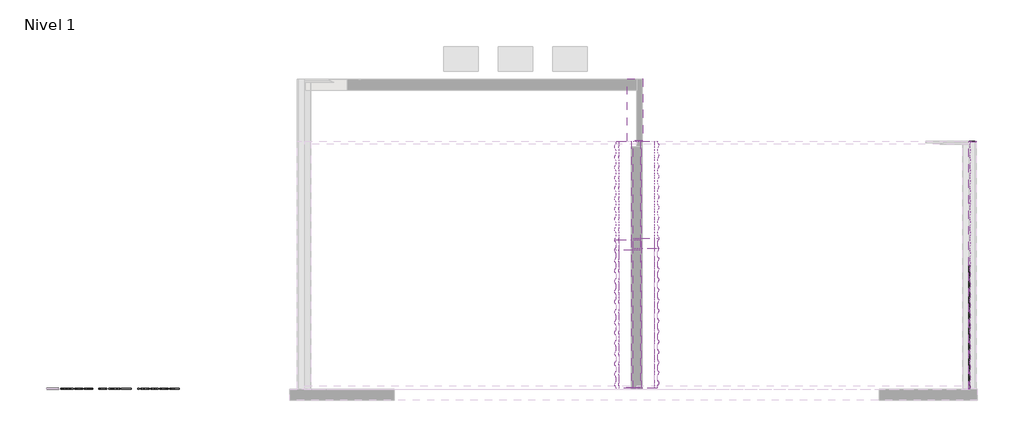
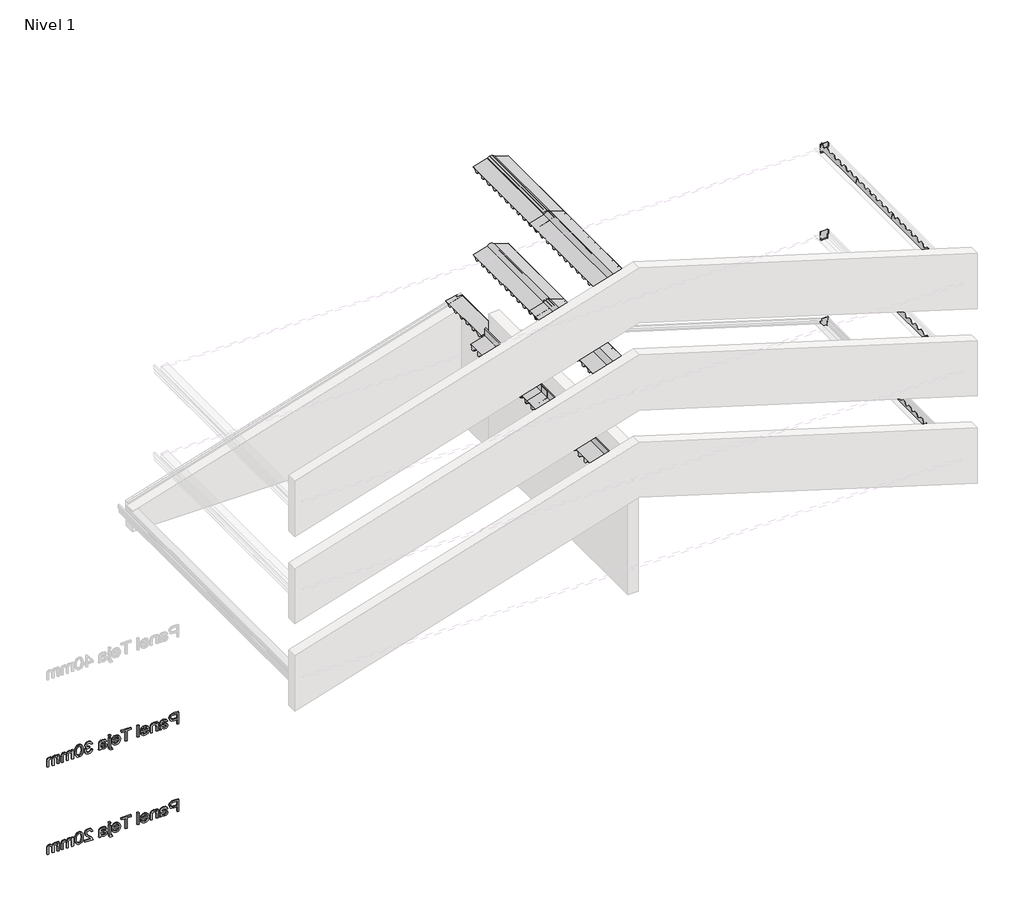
# One storey, part 2 of 2: 26 proxies.
"""IFC4 building model written with IfcOpenShell, lengths in millimetres."""

from ifc_helpers import new_model, si_unit, frame, origin, place, context, project, spatial, polyline, outline, extrude, transform, mapped, element, save
from components import generic_models_f6ca269d, generic_models_1d7e2827, generic_models_13c3b65c, generic_models_877061e0, generic_models_30704ff6, generic_models_2663ef57, generic_models_bbb43453, generic_models_f9b15205, generic_models_c7695958, generic_models_a4d5a3c6, generic_models_b343a18a, generic_models_d8b17708, generic_models_663f8130

model = new_model("IFC4")

# Units and contexts
model_context = context("Model", 3, world=origin())
ifc_project = project(units=[si_unit("LENGTHUNIT", "METRE", prefix="MILLI")], contexts=[model_context])

# Site, building, storey
site = spatial("IfcSite", under=ifc_project)
building = spatial("IfcBuilding", under=site)
storey = spatial("IfcBuildingStorey", under=building, Name="Nivel 1", Elevation=0.0)

# Proxies
placement = place(None, origin())
generic_models_shape = generic_models_f6ca269d(model_context)
element("IfcBuildingElementProxy", 1, Name="H20.F20.003-C-REMATES TEJA-Silueta : Silueta Teja - Panel 30mm", ObjectType="H20.F20.003-C-REMATES TEJA-Silueta : Silueta Teja - Panel 30mm", at=placement, inside=storey, context=model_context, shape_type="MappedRepresentation", body=[
    mapped(generic_models_shape, transform((5591.0812794, 18797.7330794, 2490.8951152), x_axis=(0.0, 1.0, 0.0), y_axis=(0.2923717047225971, 0.0, 0.9563047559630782), z_axis=(0.9563047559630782, 0.0, -0.2923717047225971))),
])
element("IfcBuildingElementProxy", 2, Name="H20.F20.003-C-REMATES TEJA-Silueta : Silueta Teja - Panel 30mm", ObjectType="H20.F20.003-C-REMATES TEJA-Silueta : Silueta Teja - Panel 30mm", at=placement, inside=storey, context=model_context, shape_type="MappedRepresentation", body=[
    mapped(generic_models_shape, transform((5591.0812794, 19797.8020079, 2490.8951152), x_axis=(0.0, 1.0, 0.0), y_axis=(0.2923717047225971, 0.0, 0.9563047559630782), z_axis=(0.9563047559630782, 0.0, -0.2923717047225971))),
])
generic_models_2_shape = generic_models_1d7e2827(model_context)
element("IfcBuildingElementProxy", 3, Name="H20.F20.003-C-REMATES TEJA-Silueta : Silueta Teja - Panel 40mm", ObjectType="H20.F20.003-C-REMATES TEJA-Silueta : Silueta Teja - Panel 40mm", at=placement, inside=storey, context=model_context, shape_type="MappedRepresentation", body=[
    mapped(generic_models_2_shape, transform((5591.0812794, 18797.7330794, 3990.8951152), x_axis=(0.0, 1.0, 0.0), y_axis=(0.2923717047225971, 0.0, 0.9563047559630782), z_axis=(0.9563047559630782, 0.0, -0.2923717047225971))),
])
element("IfcBuildingElementProxy", 4, Name="H20.F20.003-C-REMATES TEJA-Silueta : Silueta Teja - Panel 40mm", ObjectType="H20.F20.003-C-REMATES TEJA-Silueta : Silueta Teja - Panel 40mm", at=placement, inside=storey, context=model_context, shape_type="MappedRepresentation", body=[
    mapped(generic_models_2_shape, transform((5591.0812794, 19797.8020079, 3990.8951152), x_axis=(0.0, 1.0, 0.0), y_axis=(0.2923717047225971, 0.0, 0.9563047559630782), z_axis=(0.9563047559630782, 0.0, -0.2923717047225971))),
])
element("IfcBuildingElementProxy", 5, Name="H20.F20.003-C-REMATES TEJA-Silueta : Silueta Teja - Panel 40mm", ObjectType="H20.F20.003-C-REMATES TEJA-Silueta : Silueta Teja - Panel 40mm", at=placement, inside=storey, context=model_context, shape_type="MappedRepresentation", body=[
    mapped(generic_models_2_shape, transform((5591.0812794, 20797.8020079, 3990.8951152), x_axis=(0.0, 1.0, 0.0), y_axis=(0.2923717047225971, 0.0, 0.9563047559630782), z_axis=(0.9563047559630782, 0.0, -0.2923717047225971))),
])
element("IfcBuildingElementProxy", 6, Name="H20.F20.003-C-REMATES TEJA-Silueta : Silueta Teja - Panel 40mm", ObjectType="H20.F20.003-C-REMATES TEJA-Silueta : Silueta Teja - Panel 40mm", at=placement, inside=storey, context=model_context, shape_type="MappedRepresentation", body=[
    mapped(generic_models_2_shape, transform((5591.0812794, 21797.8020079, 3990.8951152), x_axis=(0.0, 1.0, 0.0), y_axis=(0.2923717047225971, 0.0, 0.9563047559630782), z_axis=(0.9563047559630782, 0.0, -0.2923717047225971))),
])
generic_models_3_shape = generic_models_13c3b65c(model_context)
element("IfcBuildingElementProxy", 7, Name="H20.F20.003-C-REMATES TEJA-Silueta : Silueta Teja - Panel 20mm", ObjectType="H20.F20.003-C-REMATES TEJA-Silueta : Silueta Teja - Panel 20mm", at=placement, inside=storey, context=model_context, shape_type="MappedRepresentation", body=[
    mapped(generic_models_3_shape, transform((5591.0812794, 18797.7330794, 990.8951152), x_axis=(0.0, 1.0, 0.0), y_axis=(0.2923717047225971, 0.0, 0.9563047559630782), z_axis=(0.9563047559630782, 0.0, -0.2923717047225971))),
])
element("IfcBuildingElementProxy", 8, Name="H20.F20.003-C-REMATES TEJA-Silueta : Silueta Teja - Panel 20mm", ObjectType="H20.F20.003-C-REMATES TEJA-Silueta : Silueta Teja - Panel 20mm", at=placement, inside=storey, context=model_context, shape_type="MappedRepresentation", body=[
    mapped(generic_models_3_shape, transform((5591.0812794, 19797.8020079, 990.8951152), x_axis=(0.0, 1.0, 0.0), y_axis=(0.2923717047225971, 0.0, 0.9563047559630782), z_axis=(0.9563047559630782, 0.0, -0.2923717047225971))),
])
generic_models_4_shape = generic_models_877061e0(model_context)
element("IfcBuildingElementProxy", 9, Name="H20.F20.003-B-REMATES TEJA-Cumbrera Troquelada : Cumbrera Troquelada Teja", ObjectType="H20.F20.003-B-REMATES TEJA-Cumbrera Troquelada : Cumbrera Troquelada Teja", at=placement, inside=storey, context=model_context, shape_type="MappedRepresentation", body=[
    mapped(generic_models_4_shape, transform((234.7183436, 18727.8120851, 5721.8271444), x_axis=(0.0, 1.0, 0.0), y_axis=(-1.0, 0.0, 0.0), z_axis=(0.0, 0.0, 1.0))),
])
element("IfcBuildingElementProxy", 10, Name="H20.F20.003-B-REMATES TEJA-Cumbrera Troquelada : Cumbrera Troquelada Teja", ObjectType="H20.F20.003-B-REMATES TEJA-Cumbrera Troquelada : Cumbrera Troquelada Teja", at=placement, inside=storey, context=model_context, shape_type="MappedRepresentation", body=[
    mapped(generic_models_4_shape, transform((234.7183436, 18727.8120851, 4212.4521444), x_axis=(0.0, 1.0, 0.0), y_axis=(-1.0, 0.0, 0.0), z_axis=(0.0, 0.0, 1.0))),
])
generic_models_5_shape = generic_models_30704ff6(model_context)
element("IfcBuildingElementProxy", 11, Name="H20.F20.003-B-REMATES TEJA-Cumbrera Troquelada : Cumbrera Troquelada Teja", ObjectType="H20.F20.003-B-REMATES TEJA-Cumbrera Troquelada : Cumbrera Troquelada Teja", at=placement, inside=storey, context=model_context, shape_type="MappedRepresentation", body=[
    mapped(generic_models_5_shape, transform((234.7183436, 21061.2520851, 5721.8271444), x_axis=(0.0, 1.0, 0.0), y_axis=(-1.0, 0.0, 0.0), z_axis=(0.0, 0.0, 1.0))),
])
element("IfcBuildingElementProxy", 12, Name="H20.F20.003-B-REMATES TEJA-Cumbrera Troquelada : Cumbrera Troquelada Teja", ObjectType="H20.F20.003-B-REMATES TEJA-Cumbrera Troquelada : Cumbrera Troquelada Teja", at=placement, inside=storey, context=model_context, shape_type="MappedRepresentation", body=[
    mapped(generic_models_5_shape, transform((234.7183436, 21061.2520851, 4212.4521444), x_axis=(0.0, 1.0, 0.0), y_axis=(-1.0, 0.0, 0.0), z_axis=(0.0, 0.0, 1.0))),
])
generic_models_6_shape = generic_models_2663ef57(model_context)
element("IfcBuildingElementProxy", 13, Name="H20.F20.003-B-REMATES TEJA-Cumbrera Troquelada : Cumbrera Troquelada Teja", ObjectType="H20.F20.003-B-REMATES TEJA-Cumbrera Troquelada : Cumbrera Troquelada Teja", at=placement, inside=storey, context=model_context, shape_type="MappedRepresentation", body=[
    mapped(generic_models_6_shape, transform((234.6051023, 18703.8120851, 5723.7021444), x_axis=(0.0, 1.0, 0.0), y_axis=(-1.0, 0.0, 0.0), z_axis=(0.0, 0.0, 1.0))),
])
element("IfcBuildingElementProxy", 14, Name="H20.F20.003-B-REMATES TEJA-Cumbrera Troquelada : Cumbrera Troquelada Teja", ObjectType="H20.F20.003-B-REMATES TEJA-Cumbrera Troquelada : Cumbrera Troquelada Teja", at=placement, inside=storey, context=model_context, shape_type="MappedRepresentation", body=[
    mapped(generic_models_6_shape, transform((234.6051023, 18703.8120851, 4215.5771444), x_axis=(0.0, 1.0, 0.0), y_axis=(-1.0, 0.0, 0.0), z_axis=(0.0, 0.0, 1.0))),
])
generic_models_7_shape = generic_models_bbb43453(model_context)
element("IfcBuildingElementProxy", 15, Name="H20.F20.003-B-REMATES TEJA-Cumbrera Troquelada : Cumbrera Troquelada Teja", ObjectType="H20.F20.003-B-REMATES TEJA-Cumbrera Troquelada : Cumbrera Troquelada Teja", at=placement, inside=storey, context=model_context, shape_type="MappedRepresentation", body=[
    mapped(generic_models_7_shape, transform((234.6051023, 21037.2520851, 5723.7021444), x_axis=(0.0, 1.0, 0.0), y_axis=(-1.0, 0.0, 0.0), z_axis=(0.0, 0.0, 1.0))),
])
element("IfcBuildingElementProxy", 16, Name="H20.F20.003-B-REMATES TEJA-Cumbrera Troquelada : Cumbrera Troquelada Teja", ObjectType="H20.F20.003-B-REMATES TEJA-Cumbrera Troquelada : Cumbrera Troquelada Teja", at=placement, inside=storey, context=model_context, shape_type="MappedRepresentation", body=[
    mapped(generic_models_7_shape, transform((234.6051023, 21037.2520851, 4215.5771444), x_axis=(0.0, 1.0, 0.0), y_axis=(-1.0, 0.0, 0.0), z_axis=(0.0, 0.0, 1.0))),
])
generic_models_8_shape = generic_models_f9b15205(model_context)
element("IfcBuildingElementProxy", 17, Name="H20.F20.003-E-REMATES TEJA-Troquelado a Pared : Troquelado a Pared Teja", ObjectType="H20.F20.003-E-REMATES TEJA-Troquelado a Pared : Troquelado a Pared Teja", at=placement, inside=storey, context=model_context, shape_type="MappedRepresentation", body=[
    mapped(generic_models_8_shape, transform((331.0161256, 18727.8120851, 2678.6588135), x_axis=(0.0, 1.0, 0.0), y_axis=(-1.0, 0.0, 0.0), z_axis=(0.0, 0.0, 1.0))),
])
generic_models_9_shape = generic_models_c7695958(model_context)
element("IfcBuildingElementProxy", 18, Name="H20.F20.003-E-REMATES TEJA-Troquelado a Pared : Troquelado a Pared Teja", ObjectType="H20.F20.003-E-REMATES TEJA-Troquelado a Pared : Troquelado a Pared Teja", at=placement, inside=storey, context=model_context, shape_type="MappedRepresentation", body=[
    mapped(generic_models_9_shape, transform((331.0161256, 21061.2520851, 2678.6588135), x_axis=(0.0, 1.0, 0.0), y_axis=(-1.0, 0.0, 0.0), z_axis=(0.0, 0.0, 1.0))),
])
generic_models_10_shape = generic_models_a4d5a3c6(model_context)
element("IfcBuildingElementProxy", 19, Name="H20.F20.003-E-REMATES TEJA-Troquelado a Pared : Troquelado a Pared Teja", ObjectType="H20.F20.003-E-REMATES TEJA-Troquelado a Pared : Troquelado a Pared Teja", at=placement, inside=storey, context=model_context, shape_type="MappedRepresentation", body=[
    mapped(generic_models_10_shape, transform((139.2314129, 18703.8120851, 2678.9184813), x_axis=(0.0, 1.0, 0.0), y_axis=(-1.0, 0.0, 0.0), z_axis=(0.0, 0.0, 1.0))),
])
generic_models_11_shape = generic_models_b343a18a(model_context)
element("IfcBuildingElementProxy", 20, Name="H20.F20.003-E-REMATES TEJA-Troquelado a Pared : Troquelado a Pared Teja", ObjectType="H20.F20.003-E-REMATES TEJA-Troquelado a Pared : Troquelado a Pared Teja", at=placement, inside=storey, context=model_context, shape_type="MappedRepresentation", body=[
    mapped(generic_models_11_shape, transform((139.2314129, 21037.2520851, 2678.9184813), x_axis=(0.0, 1.0, 0.0), y_axis=(-1.0, 0.0, 0.0), z_axis=(0.0, 0.0, 1.0))),
])
generic_models_12_shape = generic_models_d8b17708(model_context)
element("IfcBuildingElementProxy", 21, Name="H20.F20.003-F-REMATES TEJA-Troquelado Sobre Pared : Troquelado sobre Pared Teja", ObjectType="H20.F20.003-F-REMATES TEJA-Troquelado Sobre Pared : Troquelado sobre Pared Teja", at=placement, inside=storey, context=model_context, shape_type="MappedRepresentation", body=[
    mapped(generic_models_12_shape, transform((321.7005399, 22702.2520851, 2733.293346), x_axis=(0.0, 1.0, 0.0), y_axis=(-1.0, 0.0, 0.0), z_axis=(0.0, 0.0, 1.0))),
])
generic_models_13_shape = generic_models_663f8130(model_context)
element("IfcBuildingElementProxy", 22, Name="H20.F20.003-G-REMATES TEJA-Tapa Canal : Tapa Canal Teja", ObjectType="H20.F20.003-G-REMATES TEJA-Tapa Canal : Tapa Canal Teja", at=placement, inside=storey, context=model_context, shape_type="MappedRepresentation", body=[
    mapped(generic_models_13_shape, transform((5590.9058563, 22779.3589498, 921.1213324), x_axis=(0.0, 1.0, 0.0), y_axis=(-1.0, 0.0, 0.0), z_axis=(0.0, 0.0, 1.0))),
])
element("IfcBuildingElementProxy", 23, Name="H20.F20.003-G-REMATES TEJA-Tapa Canal : Tapa Canal Teja", ObjectType="H20.F20.003-G-REMATES TEJA-Tapa Canal : Tapa Canal Teja", at=placement, inside=storey, context=model_context, shape_type="MappedRepresentation", body=[
    mapped(generic_models_13_shape, transform((5590.9058563, 22779.3589498, 2421.1213324), x_axis=(0.0, 1.0, 0.0), y_axis=(-1.0, 0.0, 0.0), z_axis=(0.0, 0.0, 1.0))),
])
element("IfcBuildingElementProxy", 24, Name="H20.F20.003-G-REMATES TEJA-Tapa Canal : Tapa Canal Teja", ObjectType="H20.F20.003-G-REMATES TEJA-Tapa Canal : Tapa Canal Teja", at=placement, inside=storey, context=model_context, shape_type="MappedRepresentation", body=[
    mapped(generic_models_13_shape, transform((5590.9058563, 22779.3589498, 3921.1213324), x_axis=(0.0, 1.0, 0.0), y_axis=(-1.0, 0.0, 0.0), z_axis=(0.0, 0.0, 1.0))),
])
element("IfcBuildingElementProxy", 25, Name="100mm Arial", ObjectType="100mm Arial", at=placement, inside=storey, context=model_context, shape_type="SweptSolid", body=[
    extrude(outline(polyline([(987.5212991, -7150.7133519), (1188.4339194, -7150.7133519), (1188.4339194, -7225.1726677), (1186.520933, -7255.1918385), (1177.1276794, -7279.5946775), (1168.8012836, -7288.466765), (1157.7035101, -7295.4136033), (1144.6130424, -7299.9017637), (1130.3085642, -7301.3978171), (1106.6292264, -7297.3572465), (1086.8984887, -7285.2355348), (1079.1300473, -7275.5280486), (1073.5811605, -7262.5678725), (1069.1420511, -7226.8894504), (1069.1420511, -7175.8274294), (987.5212991, -7175.8274294), (987.5212991, -7150.7133519)]), holes=[polyline([(1094.2561286, -7175.8274294), (1094.2561286, -7228.3609783), (1096.5615225, -7250.6301018), (1103.477704, -7265.3453816), (1114.5754775, -7273.5491501), (1129.4256474, -7276.2837396), (1140.7073619, -7274.6711902), (1150.2232428, -7269.8335419), (1157.384679, -7262.3716688), (1161.6030592, -7252.8864447), (1163.3198419, -7227.7723671), (1163.3198419, -7175.8274294), (1094.2561286, -7175.8274294)])]), frame((0.0, 18791.6946661, 0.0), z_axis=(0.0, 1.0, 0.0), x_axis=(0.0, 0.0, 1.0)), (0.0, 0.0, 1.0), 20.0),
    extrude(outline(polyline([(1006.3568572, -7426.9682048), (989.3361836, -7402.6144167), (984.3820394, -7375.7099801), (987.3618836, -7354.7223123), (996.301416, -7339.2406117), (1009.8762617, -7329.6940739), (1026.7620452, -7326.5118946), (1046.627673, -7331.318886), (1061.0486472, -7343.9495012), (1069.2892039, -7361.5342606), (1073.0661257, -7383.2638238), (1081.6990899, -7426.821052), (1087.2908962, -7426.9682048), (1098.4990343, -7425.2391594), (1105.8321487, -7420.0520233), (1111.2768023, -7408.4514777), (1113.0916868, -7392.2891954), (1111.8838076, -7377.3286609), (1108.2601699, -7366.8808122), (1101.5585862, -7359.7561643), (1091.1168689, -7354.7652319), (1094.2561286, -7329.6511543), (1118.781595, -7340.5159359), (1127.0344144, -7349.7742995), (1133.1535182, -7362.3926519), (1138.2057643, -7395.5265569), (1133.7421294, -7425.9626607), (1122.5339913, -7443.1550126), (1105.4887922, -7450.856009), (1083.5139744, -7452.0822823), (1052.2685302, -7452.0822823), (1008.6377256, -7453.3576066), (987.5212991, -7458.3608017), (987.5212991, -7433.2467242), (1006.3568572, -7426.9682048)]), holes=[polyline([(1056.5850123, -7426.9682048), (1048.8840159, -7386.4521344), (1044.8127885, -7364.8451985), (1038.1909126, -7355.0595375), (1028.5278788, -7351.6259722), (1021.0598743, -7353.496039), (1014.9407705, -7359.1062394), (1010.8572803, -7368.3339461), (1009.4961169, -7381.0565318), (1010.9983017, -7394.5455383), (1015.5048562, -7406.4649149), (1030.0484577, -7422.8479264), (1049.4726271, -7426.821052), (1056.5850123, -7426.9682048)])]), frame((0.0, 18791.6946661, 0.0), z_axis=(0.0, 1.0, 0.0), x_axis=(0.0, 0.0, 1.0)), (0.0, 0.0, 1.0), 20.0),
    extrude(outline(polyline([(987.5212991, -7486.6141389), (1135.0665046, -7486.6141389), (1135.0665046, -7511.7282165), (1114.4651129, -7511.7282165), (1124.8516479, -7520.4531511), (1132.2706015, -7530.9316566), (1136.7219736, -7543.163733), (1138.2057643, -7557.1493802), (1133.4232984, -7580.8655061), (1120.8662596, -7597.0523139), (1102.3985835, -7604.5816321), (1078.1183718, -7605.9060072), (987.5212991, -7605.9060072), (987.5212991, -7580.7919297), (1074.7338574, -7580.7919297), (1096.9539299, -7577.8979247), (1108.7016283, -7567.6708052), (1113.0916868, -7550.4294024), (1110.6268774, -7535.7202539), (1103.2324493, -7523.1816093), (1088.9463652, -7514.5915647), (1065.8065877, -7511.7282165), (987.5212991, -7511.7282165), (987.5212991, -7486.6141389)])), frame((0.0, 18791.6946661, 0.0), z_axis=(0.0, 1.0, 0.0), x_axis=(0.0, 0.0, 1.0)), (0.0, 0.0, 1.0), 20.0),
    extrude(outline(polyline([(1031.4709348, -7743.7391281), (1028.3316751, -7768.3626963), (1009.7781598, -7759.4906089), (995.9090086, -7745.3332834), (987.2637817, -7726.209551), (984.3820394, -7702.4382428), (989.3545777, -7672.970895), (1004.2721926, -7650.2971013), (1028.1661282, -7635.8393389), (1060.0676285, -7631.0200848), (1093.042118, -7635.8883899), (1117.7024745, -7650.4933051), (1133.0799418, -7672.8605304), (1138.2057643, -7701.0157657), (1133.0922046, -7728.2942157), (1117.7515254, -7750.0912239), (1093.1402199, -7764.3834394), (1060.2147813, -7769.1475112), (1053.4457526, -7769.0003584), (1053.4457526, -7656.1341623), (1034.6469827, -7660.4813012), (1020.8268824, -7670.579662), (1012.3288083, -7685.1539204), (1009.4961169, -7702.9287521), (1014.7445667, -7727.5523203), (1021.5503836, -7736.7003193), (1031.4709348, -7743.7391281)]), holes=[polyline([(1078.5598302, -7656.1341623), (1078.5598302, -7744.0334337), (1091.8281075, -7740.6366566), (1101.3194629, -7733.9779925), (1110.1486308, -7719.3362891), (1113.0916868, -7700.9176639), (1110.7433734, -7683.9889607), (1103.6984332, -7669.9910508), (1092.7171556, -7660.260572), (1078.5598302, -7656.1341623)])]), frame((0.0, 18791.6946661, 0.0), z_axis=(0.0, 1.0, 0.0), x_axis=(0.0, 0.0, 1.0)), (0.0, 0.0, 1.0), 20.0),
    extrude(outline(polyline([(-7819.3756663, 18811.6946661), (-7794.2615888, 18811.6946661), (-7794.2615888, 18791.6946661), (-7819.3756663, 18791.6946661), (-7819.3756663, 18811.6946661)])), frame((0.0, 0.0, 987.5212991), z_axis=(0.0, 0.0, 1.0), x_axis=(1.0, 0.0, 0.0)), (0.0, 0.0, 1.0), 200.9126203),
    extrude(outline(polyline([(987.5212991, -7988.8956897), (1163.3198419, -7988.8956897), (1163.3198419, -7922.9712362), (1188.4339194, -7922.9712362), (1188.4339194, -8079.9342208), (1163.3198419, -8079.9342208), (1163.3198419, -8014.0097672), (987.5212991, -8014.0097672), (987.5212991, -7988.8956897)])), frame((0.0, 18791.6946661, 0.0), z_axis=(0.0, 1.0, 0.0), x_axis=(0.0, 0.0, 1.0)), (0.0, 0.0, 1.0), 20.0),
    extrude(outline(polyline([(1031.4709348, -8208.3495625), (1028.3316751, -8232.9731308), (1009.7781598, -8224.1010433), (995.9090086, -8209.9437179), (987.2637817, -8190.8199855), (984.3820394, -8167.0486772), (989.3545777, -8137.5813294), (1004.2721926, -8114.9075358), (1028.1661282, -8100.4497734), (1060.0676285, -8095.6305192), (1093.042118, -8100.4988243), (1117.7024745, -8115.1037395), (1133.0799418, -8137.4709648), (1138.2057643, -8165.6262002), (1133.0922046, -8192.9046501), (1117.7515254, -8214.7016583), (1093.1402199, -8228.9938738), (1060.2147813, -8233.7579457), (1053.4457526, -8233.6107929), (1053.4457526, -8120.7445968), (1034.6469827, -8125.0917357), (1020.8268824, -8135.1900964), (1012.3288083, -8149.7643548), (1009.4961169, -8167.5391866), (1014.7445667, -8192.1627548), (1021.5503836, -8201.3107537), (1031.4709348, -8208.3495625)]), holes=[polyline([(1078.5598302, -8120.7445968), (1078.5598302, -8208.6438681), (1091.8281075, -8205.2470911), (1101.3194629, -8198.5884269), (1110.1486308, -8183.9467235), (1113.0916868, -8165.5280983), (1110.7433734, -8148.5993952), (1103.6984332, -8134.6014852), (1092.7171556, -8124.8710065), (1078.5598302, -8120.7445968)])]), frame((0.0, 18791.6946661, 0.0), z_axis=(0.0, 1.0, 0.0), x_axis=(0.0, 0.0, 1.0)), (0.0, 0.0, 1.0), 20.0),
    extrude(outline(polyline([(-8283.9861008, 18811.6946661), (-8258.8720232, 18811.6946661), (-8258.8720232, 18791.6946661), (-8283.9861008, 18791.6946661), (-8283.9861008, 18811.6946661)])), frame((0.0, 0.0, 1163.3198419), z_axis=(0.0, 0.0, 1.0), x_axis=(1.0, 0.0, 0.0)), (0.0, 0.0, 1.0), 25.1140775),
    extrude(outline(polyline([(930.9165228, -8227.2341716), (954.804327, -8232.5316724), (952.9894425, -8244.0586415), (957.9681121, -8255.2177287), (982.8614605, -8258.8720232), (1135.0665046, -8258.8720232), (1135.0665046, -8283.9861008), (979.6240989, -8283.9861008), (956.5701606, -8282.2080044), (941.7567789, -8276.8737155), (931.3457184, -8264.856237), (927.8753649, -8246.8545447), (930.9165228, -8227.2341716)])), frame((0.0, 18791.6946661, 0.0), z_axis=(0.0, 1.0, 0.0), x_axis=(0.0, 0.0, 1.0)), (0.0, 0.0, 1.0), 20.0),
    extrude(outline(polyline([(1006.3568572, -8415.8350078), (989.3361836, -8391.4812197), (984.3820394, -8364.5767832), (987.3618836, -8343.5891153), (996.301416, -8328.1074147), (1009.8762617, -8318.5608769), (1026.7620452, -8315.3786977), (1046.627673, -8320.1856891), (1061.0486472, -8332.8163043), (1069.2892039, -8350.4010636), (1073.0661257, -8372.1306268), (1081.6990899, -8415.687855), (1087.2908962, -8415.8350078), (1098.4990343, -8414.1059625), (1105.8321487, -8408.9188263), (1111.2768023, -8397.3182807), (1113.0916868, -8381.1559984), (1111.8838076, -8366.1954639), (1108.2601699, -8355.7476153), (1101.5585862, -8348.6229673), (1091.1168689, -8343.6320349), (1094.2561286, -8318.5179574), (1118.781595, -8329.382739), (1127.0344144, -8338.6411025), (1133.1535182, -8351.2594549), (1138.2057643, -8384.39336), (1133.7421294, -8414.8294637), (1122.5339913, -8432.0218156), (1105.4887922, -8439.722812), (1083.5139744, -8440.9490854), (1052.2685302, -8440.9490854), (1008.6377256, -8442.2244096), (987.5212991, -8447.2276048), (987.5212991, -8422.1135272), (1006.3568572, -8415.8350078)]), holes=[polyline([(1056.5850123, -8415.8350078), (1048.8840159, -8375.3189374), (1044.8127885, -8353.7120016), (1038.1909126, -8343.9263405), (1028.5278788, -8340.4927752), (1021.0598743, -8342.362842), (1014.9407705, -8347.9730425), (1010.8572803, -8357.2007492), (1009.4961169, -8369.9233348), (1010.9983017, -8383.4123413), (1015.5048562, -8395.331718), (1030.0484577, -8411.7147295), (1049.4726271, -8415.687855), (1056.5850123, -8415.8350078)])]), frame((0.0, 18791.6946661, 0.0), z_axis=(0.0, 1.0, 0.0), x_axis=(0.0, 0.0, 1.0)), (0.0, 0.0, 1.0), 20.0),
    extrude(outline(polyline([(1040.8887139, -8547.6839149), (1044.0279735, -8572.7979924), (1028.245836, -8578.4204556), (1017.5895208, -8586.6548809), (1011.5194679, -8597.9059386), (1009.4961169, -8612.5782988), (1012.2797574, -8629.7951762), (1020.6306787, -8643.087979), (1033.0896156, -8651.5860531), (1048.1973028, -8654.4187444), (1062.5385693, -8651.6105785), (1074.1697717, -8643.1860808), (1081.8768995, -8630.4328383), (1084.4459421, -8614.638438), (1081.6990899, -8597.0291532), (1106.8131674, -8599.8250563), (1106.5188618, -8603.8472328), (1108.3214836, -8618.8936064), (1113.7293489, -8632.3458247), (1122.8773478, -8641.8371802), (1135.9003705, -8645.0009654), (1146.746758, -8642.7078343), (1155.545269, -8635.8284409), (1161.3761986, -8625.3315413), (1163.3198419, -8612.1858914), (1161.3578045, -8599.015716), (1155.4716926, -8588.2490362), (1145.6615061, -8580.3886243), (1131.9272449, -8575.9372521), (1135.0665046, -8550.8231746), (1157.6176709, -8558.2176027), (1174.4544036, -8571.3755154), (1184.9390404, -8589.3772077), (1188.4339194, -8611.3029746), (1186.7110054, -8627.0912436), (1181.5422633, -8641.5919255), (1173.3875458, -8653.8178705), (1162.7067052, -8662.7819285), (1150.4010525, -8668.2817643), (1137.3718985, -8670.1150429), (1125.2317926, -8668.3737348), (1114.2198582, -8663.1498105), (1104.8388674, -8654.5168463), (1097.591592, -8642.5484187), (1091.2394963, -8658.2692427), (1080.4237656, -8669.9188392), (1065.7330113, -8677.1293263), (1047.7558444, -8679.532822), (1023.279429, -8674.7258306), (1002.8251901, -8660.3048564), (988.9928271, -8638.538505), (984.3820394, -8611.6953821), (988.3183767, -8587.4151704), (1000.1273888, -8567.6476445), (1018.1903948, -8553.9011206), (1040.8887139, -8547.6839149)])), frame((0.0, 18791.6946661, 0.0), z_axis=(0.0, 1.0, 0.0), x_axis=(0.0, 0.0, 1.0)), (0.0, 0.0, 1.0), 20.0),
    extrude(outline(polyline([(1086.3589285, -8701.5076398), (1118.5179462, -8703.3531812), (1144.1654526, -8708.8898052), (1163.6938552, -8718.0623296), (1177.4955614, -8730.8155721), (1185.6993299, -8747.2415032), (1188.4339194, -8767.4320934), (1186.8152386, -8782.9076626), (1181.9591963, -8796.7645511), (1174.0558647, -8808.3528339), (1163.2953164, -8817.0225863), (1133.5704512, -8828.7948101), (1086.3589285, -8833.3565469), (1054.3838517, -8831.5293996), (1028.7976589, -8826.0479579), (1009.2508623, -8816.9306158), (995.3939738, -8804.1957674), (987.135023, -8787.7330481), (984.3820394, -8767.4320934), (989.1645053, -8741.3369972), (1003.5119031, -8721.5204204), (1018.6410502, -8712.7648289), (1037.4919368, -8706.510835), (1086.3589285, -8701.5076398)]), holes=[polyline([(1086.4079794, -8726.6217174), (1046.9035845, -8729.5647733), (1024.0397185, -8738.3939412), (1013.1320173, -8751.5395912), (1009.4961169, -8767.4320934), (1013.1442801, -8783.3245955), (1024.0887694, -8796.4702455), (1046.9648981, -8805.2994134), (1086.4079794, -8808.2424694), (1125.0233262, -8805.3975153), (1148.0650018, -8796.862653), (1159.5061318, -8783.7415285), (1163.3198419, -8767.1377878), (1159.959853, -8751.4169638), (1149.8798863, -8738.7863487), (1125.4034709, -8729.6628752), (1086.4079794, -8726.6217174)])]), frame((0.0, 18791.6946661, 0.0), z_axis=(0.0, 1.0, 0.0), x_axis=(0.0, 0.0, 1.0)), (0.0, 0.0, 1.0), 20.0),
    extrude(outline(polyline([(987.5212991, -8861.6098841), (1135.0665046, -8861.6098841), (1135.0665046, -8886.7239617), (1110.7862929, -8886.7239617), (1121.9392488, -8894.2778053), (1130.6764461, -8903.98989), (1136.3234348, -8915.5291219), (1138.2057643, -8928.5644072), (1136.2866466, -8942.5316603), (1130.5292933, -8953.7275357), (1121.3138494, -8962.0907197), (1109.0204594, -8967.5598987), (1121.7890303, -8976.714029), (1130.9094381, -8987.1557463), (1136.3816828, -8998.8850506), (1138.2057643, -9011.9019419), (1135.1707379, -9030.7804196), (1126.0656585, -9044.7415413), (1110.6452715, -9053.3683741), (1088.6643223, -9056.243985), (987.5212991, -9056.243985), (987.5212991, -9031.1299075), (1077.8731171, -9031.1299075), (1098.8423908, -9028.7999882), (1109.1676122, -9020.3632278), (1113.0916868, -9006.01583), (1110.5778265, -8992.4103275), (1103.0362456, -8981.3186853), (1089.9519093, -8973.9426513), (1070.8097828, -8971.4839733), (987.5212991, -8971.4839733), (987.5212991, -8946.3698958), (1080.6690203, -8946.3698958), (1094.8692653, -8944.9167619), (1104.9982829, -8940.5573603), (1111.0683358, -8932.8870207), (1113.0916868, -8921.5010729), (1107.6960842, -8902.9107694), (1101.0496828, -8895.5531295), (1091.9016839, -8890.5499344), (1061.931564, -8886.7239617), (987.5212991, -8886.7239617), (987.5212991, -8861.6098841)])), frame((0.0, 18791.6946661, 0.0), z_axis=(0.0, 1.0, 0.0), x_axis=(0.0, 0.0, 1.0)), (0.0, 0.0, 1.0), 20.0),
    extrude(outline(polyline([(987.5212991, -9093.9151013), (1135.0665046, -9093.9151013), (1135.0665046, -9119.0291789), (1110.7862929, -9119.0291789), (1121.9392488, -9126.5830225), (1130.6764461, -9136.2951072), (1136.3234348, -9147.8343391), (1138.2057643, -9160.8696245), (1136.2866466, -9174.8368775), (1130.5292933, -9186.0327529), (1121.3138494, -9194.395937), (1109.0204594, -9199.8651159), (1121.7890303, -9209.0192463), (1130.9094381, -9219.4609636), (1136.3816828, -9231.1902678), (1138.2057643, -9244.2071591), (1135.1707379, -9263.0856368), (1126.0656585, -9277.0467585), (1110.6452715, -9285.6735913), (1088.6643223, -9288.5492023), (987.5212991, -9288.5492023), (987.5212991, -9263.4351247), (1077.8731171, -9263.4351247), (1098.8423908, -9261.1052054), (1109.1676122, -9252.668445), (1113.0916868, -9238.3210472), (1110.5778265, -9224.7155447), (1103.0362456, -9213.6239026), (1089.9519093, -9206.2478686), (1070.8097828, -9203.7891906), (987.5212991, -9203.7891906), (987.5212991, -9178.675113), (1080.6690203, -9178.675113), (1094.8692653, -9177.2219791), (1104.9982829, -9172.8625775), (1111.0683358, -9165.1922379), (1113.0916868, -9153.8062902), (1107.6960842, -9135.2159867), (1101.0496828, -9127.8583468), (1091.9016839, -9122.8551516), (1061.931564, -9119.0291789), (987.5212991, -9119.0291789), (987.5212991, -9093.9151013)])), frame((0.0, 18791.6946661, 0.0), z_axis=(0.0, 1.0, 0.0), x_axis=(0.0, 0.0, 1.0)), (0.0, 0.0, 1.0), 20.0),
])
element("IfcBuildingElementProxy", 26, Name="100mm Arial", ObjectType="100mm Arial", at=placement, inside=storey, context=model_context, shape_type="SweptSolid", body=[
    extrude(outline(polyline([(-512.4787009, -7150.7133519), (-311.5660806, -7150.7133519), (-311.5660806, -7225.1726677), (-313.479067, -7255.1918385), (-322.8723206, -7279.5946775), (-331.1987164, -7288.466765), (-342.2964899, -7295.4136033), (-355.3869576, -7299.9017637), (-369.6914358, -7301.3978171), (-393.3707736, -7297.3572465), (-413.1015113, -7285.2355348), (-420.8699527, -7275.5280486), (-426.4188395, -7262.5678725), (-430.8579489, -7226.8894504), (-430.8579489, -7175.8274294), (-512.4787009, -7175.8274294), (-512.4787009, -7150.7133519)]), holes=[polyline([(-405.7438714, -7175.8274294), (-405.7438714, -7228.3609783), (-403.4384775, -7250.6301018), (-396.522296, -7265.3453816), (-385.4245225, -7273.5491501), (-370.5743526, -7276.2837396), (-359.2926381, -7274.6711902), (-349.7767572, -7269.8335419), (-342.615321, -7262.3716688), (-338.3969408, -7252.8864447), (-336.6801581, -7227.7723671), (-336.6801581, -7175.8274294), (-405.7438714, -7175.8274294)])]), frame((0.0, 18791.6946661, 0.0), z_axis=(0.0, 1.0, 0.0), x_axis=(0.0, 0.0, 1.0)), (0.0, 0.0, 1.0), 20.0),
    extrude(outline(polyline([(-493.6431428, -7426.9682048), (-510.6638164, -7402.6144167), (-515.6179606, -7375.7099801), (-512.6381164, -7354.7223123), (-503.698584, -7339.2406117), (-490.1237383, -7329.6940739), (-473.2379548, -7326.5118946), (-453.372327, -7331.318886), (-438.9513528, -7343.9495012), (-430.7107961, -7361.5342606), (-426.9338743, -7383.2638238), (-418.3009101, -7426.821052), (-412.7091038, -7426.9682048), (-401.5009657, -7425.2391594), (-394.1678513, -7420.0520233), (-388.7231977, -7408.4514777), (-386.9083132, -7392.2891954), (-388.1161924, -7377.3286609), (-391.7398301, -7366.8808122), (-398.4414138, -7359.7561643), (-408.8831311, -7354.7652319), (-405.7438714, -7329.6511543), (-381.218405, -7340.5159359), (-372.9655856, -7349.7742995), (-366.8464818, -7362.3926519), (-361.7942357, -7395.5265569), (-366.2578706, -7425.9626607), (-377.4660087, -7443.1550126), (-394.5112078, -7450.856009), (-416.4860256, -7452.0822823), (-447.7314698, -7452.0822823), (-491.3622744, -7453.3576066), (-512.4787009, -7458.3608017), (-512.4787009, -7433.2467242), (-493.6431428, -7426.9682048)]), holes=[polyline([(-443.4149877, -7426.9682048), (-451.1159841, -7386.4521344), (-455.1872115, -7364.8451985), (-461.8090874, -7355.0595375), (-471.4721212, -7351.6259722), (-478.9401257, -7353.496039), (-485.0592295, -7359.1062394), (-489.1427197, -7368.3339461), (-490.5038831, -7381.0565318), (-489.0016983, -7394.5455383), (-484.4951438, -7406.4649149), (-469.9515423, -7422.8479264), (-450.5273729, -7426.821052), (-443.4149877, -7426.9682048)])]), frame((0.0, 18791.6946661, 0.0), z_axis=(0.0, 1.0, 0.0), x_axis=(0.0, 0.0, 1.0)), (0.0, 0.0, 1.0), 20.0),
    extrude(outline(polyline([(-512.4787009, -7486.6141389), (-364.9334954, -7486.6141389), (-364.9334954, -7511.7282165), (-385.5348871, -7511.7282165), (-375.1483521, -7520.4531511), (-367.7293985, -7530.9316566), (-363.2780264, -7543.163733), (-361.7942357, -7557.1493802), (-366.5767016, -7580.8655061), (-379.1337404, -7597.0523139), (-397.6014165, -7604.5816321), (-421.8816282, -7605.9060072), (-512.4787009, -7605.9060072), (-512.4787009, -7580.7919297), (-425.2661426, -7580.7919297), (-403.0460701, -7577.8979247), (-391.2983717, -7567.6708052), (-386.9083132, -7550.4294024), (-389.3731226, -7535.7202539), (-396.7675507, -7523.1816093), (-411.0536348, -7514.5915647), (-434.1934123, -7511.7282165), (-512.4787009, -7511.7282165), (-512.4787009, -7486.6141389)])), frame((0.0, 18791.6946661, 0.0), z_axis=(0.0, 1.0, 0.0), x_axis=(0.0, 0.0, 1.0)), (0.0, 0.0, 1.0), 20.0),
    extrude(outline(polyline([(-468.5290652, -7743.7391281), (-471.6683249, -7768.3626963), (-490.2218402, -7759.4906089), (-504.0909914, -7745.3332834), (-512.7362183, -7726.209551), (-515.6179606, -7702.4382428), (-510.6454223, -7672.970895), (-495.7278074, -7650.2971013), (-471.8338718, -7635.8393389), (-439.9323715, -7631.0200848), (-406.957882, -7635.8883899), (-382.2975255, -7650.4933051), (-366.9200582, -7672.8605304), (-361.7942357, -7701.0157657), (-366.9077954, -7728.2942157), (-382.2484746, -7750.0912239), (-406.8597801, -7764.3834394), (-439.7852187, -7769.1475112), (-446.5542474, -7769.0003584), (-446.5542474, -7656.1341623), (-465.3530173, -7660.4813012), (-479.1731176, -7670.579662), (-487.6711917, -7685.1539204), (-490.5038831, -7702.9287521), (-485.2554333, -7727.5523203), (-478.4496164, -7736.7003193), (-468.5290652, -7743.7391281)]), holes=[polyline([(-421.4401698, -7656.1341623), (-421.4401698, -7744.0334337), (-408.1718925, -7740.6366566), (-398.6805371, -7733.9779925), (-389.8513692, -7719.3362891), (-386.9083132, -7700.9176639), (-389.2566266, -7683.9889607), (-396.3015668, -7669.9910508), (-407.2828444, -7660.260572), (-421.4401698, -7656.1341623)])]), frame((0.0, 18791.6946661, 0.0), z_axis=(0.0, 1.0, 0.0), x_axis=(0.0, 0.0, 1.0)), (0.0, 0.0, 1.0), 20.0),
    extrude(outline(polyline([(-7819.3756663, 18811.6946661), (-7794.2615888, 18811.6946661), (-7794.2615888, 18791.6946661), (-7819.3756663, 18791.6946661), (-7819.3756663, 18811.6946661)])), frame((0.0, 0.0, -512.4787009), z_axis=(0.0, 0.0, 1.0), x_axis=(1.0, 0.0, 0.0)), (0.0, 0.0, 1.0), 200.9126203),
    extrude(outline(polyline([(-512.4787009, -7988.8956897), (-336.6801581, -7988.8956897), (-336.6801581, -7922.9712362), (-311.5660806, -7922.9712362), (-311.5660806, -8079.9342208), (-336.6801581, -8079.9342208), (-336.6801581, -8014.0097672), (-512.4787009, -8014.0097672), (-512.4787009, -7988.8956897)])), frame((0.0, 18791.6946661, 0.0), z_axis=(0.0, 1.0, 0.0), x_axis=(0.0, 0.0, 1.0)), (0.0, 0.0, 1.0), 20.0),
    extrude(outline(polyline([(-468.5290652, -8208.3495625), (-471.6683249, -8232.9731308), (-490.2218402, -8224.1010433), (-504.0909914, -8209.9437179), (-512.7362183, -8190.8199855), (-515.6179606, -8167.0486772), (-510.6454223, -8137.5813294), (-495.7278074, -8114.9075358), (-471.8338718, -8100.4497734), (-439.9323715, -8095.6305192), (-406.957882, -8100.4988243), (-382.2975255, -8115.1037395), (-366.9200582, -8137.4709648), (-361.7942357, -8165.6262002), (-366.9077954, -8192.9046501), (-382.2484746, -8214.7016583), (-406.8597801, -8228.9938738), (-439.7852187, -8233.7579457), (-446.5542474, -8233.6107929), (-446.5542474, -8120.7445968), (-465.3530173, -8125.0917357), (-479.1731176, -8135.1900964), (-487.6711917, -8149.7643548), (-490.5038831, -8167.5391866), (-485.2554333, -8192.1627548), (-478.4496164, -8201.3107537), (-468.5290652, -8208.3495625)]), holes=[polyline([(-421.4401698, -8120.7445968), (-421.4401698, -8208.6438681), (-408.1718925, -8205.2470911), (-398.6805371, -8198.5884269), (-389.8513692, -8183.9467235), (-386.9083132, -8165.5280983), (-389.2566266, -8148.5993952), (-396.3015668, -8134.6014852), (-407.2828444, -8124.8710065), (-421.4401698, -8120.7445968)])]), frame((0.0, 18791.6946661, 0.0), z_axis=(0.0, 1.0, 0.0), x_axis=(0.0, 0.0, 1.0)), (0.0, 0.0, 1.0), 20.0),
    extrude(outline(polyline([(-8283.9861008, 18811.6946661), (-8258.8720232, 18811.6946661), (-8258.8720232, 18791.6946661), (-8283.9861008, 18791.6946661), (-8283.9861008, 18811.6946661)])), frame((0.0, 0.0, -336.6801581), z_axis=(0.0, 0.0, 1.0), x_axis=(1.0, 0.0, 0.0)), (0.0, 0.0, 1.0), 25.1140775),
    extrude(outline(polyline([(-569.0834772, -8227.2341716), (-545.195673, -8232.5316724), (-547.0105575, -8244.0586415), (-542.0318879, -8255.2177287), (-517.1385395, -8258.8720232), (-364.9334954, -8258.8720232), (-364.9334954, -8283.9861008), (-520.3759011, -8283.9861008), (-543.4298394, -8282.2080044), (-558.2432211, -8276.8737155), (-568.6542816, -8264.856237), (-572.1246351, -8246.8545447), (-569.0834772, -8227.2341716)])), frame((0.0, 18791.6946661, 0.0), z_axis=(0.0, 1.0, 0.0), x_axis=(0.0, 0.0, 1.0)), (0.0, 0.0, 1.0), 20.0),
    extrude(outline(polyline([(-493.6431428, -8415.8350078), (-510.6638164, -8391.4812197), (-515.6179606, -8364.5767832), (-512.6381164, -8343.5891153), (-503.698584, -8328.1074147), (-490.1237383, -8318.5608769), (-473.2379548, -8315.3786977), (-453.372327, -8320.1856891), (-438.9513528, -8332.8163043), (-430.7107961, -8350.4010636), (-426.9338743, -8372.1306268), (-418.3009101, -8415.687855), (-412.7091038, -8415.8350078), (-401.5009657, -8414.1059625), (-394.1678513, -8408.9188263), (-388.7231977, -8397.3182807), (-386.9083132, -8381.1559984), (-388.1161924, -8366.1954639), (-391.7398301, -8355.7476153), (-398.4414138, -8348.6229673), (-408.8831311, -8343.6320349), (-405.7438714, -8318.5179574), (-381.218405, -8329.382739), (-372.9655856, -8338.6411025), (-366.8464818, -8351.2594549), (-361.7942357, -8384.39336), (-366.2578706, -8414.8294637), (-377.4660087, -8432.0218156), (-394.5112078, -8439.722812), (-416.4860256, -8440.9490854), (-447.7314698, -8440.9490854), (-491.3622744, -8442.2244096), (-512.4787009, -8447.2276048), (-512.4787009, -8422.1135272), (-493.6431428, -8415.8350078)]), holes=[polyline([(-443.4149877, -8415.8350078), (-451.1159841, -8375.3189374), (-455.1872115, -8353.7120016), (-461.8090874, -8343.9263405), (-471.4721212, -8340.4927752), (-478.9401257, -8342.362842), (-485.0592295, -8347.9730425), (-489.1427197, -8357.2007492), (-490.5038831, -8369.9233348), (-489.0016983, -8383.4123413), (-484.4951438, -8395.331718), (-469.9515423, -8411.7147295), (-450.5273729, -8415.687855), (-443.4149877, -8415.8350078)])]), frame((0.0, 18791.6946661, 0.0), z_axis=(0.0, 1.0, 0.0), x_axis=(0.0, 0.0, 1.0)), (0.0, 0.0, 1.0), 20.0),
    extrude(outline(polyline([(-487.3646234, -8676.3935623), (-512.4787009, -8676.3935623), (-512.4787009, -8544.5446552), (-495.1637217, -8547.2424565), (-468.5045398, -8562.4972966), (-439.3928112, -8593.9389444), (-397.5523656, -8637.2999689), (-383.1313914, -8645.430161), (-369.1028247, -8648.140225), (-356.5273918, -8645.5834452), (-346.0734118, -8637.9131056), (-339.0284716, -8626.1224876), (-336.6801581, -8611.2048727), (-338.9732893, -8595.5392311), (-345.8526826, -8583.3684684), (-356.7787778, -8575.5141878), (-371.2120148, -8572.7979924), (-368.0727551, -8547.6839149), (-343.7802807, -8553.7723619), (-326.0361058, -8566.936406), (-315.1835869, -8586.489334), (-311.5660806, -8611.744433), (-315.5882571, -8637.183473), (-327.6547865, -8656.6996128), (-345.6810043, -8669.1156301), (-367.5822457, -8673.2543026), (-391.3964736, -8668.7906677), (-416.0200418, -8653.9527606), (-450.4292711, -8617.9739014), (-474.5868554, -8589.0829021), (-487.3646234, -8577.7521366), (-487.3646234, -8676.3935623)])), frame((0.0, 18791.6946661, 0.0), z_axis=(0.0, 1.0, 0.0), x_axis=(0.0, 0.0, 1.0)), (0.0, 0.0, 1.0), 20.0),
    extrude(outline(polyline([(-413.6410715, -8701.5076398), (-381.4820538, -8703.3531812), (-355.8345474, -8708.8898052), (-336.3061448, -8718.0623296), (-322.5044386, -8730.8155721), (-314.3006701, -8747.2415032), (-311.5660806, -8767.4320934), (-313.1847614, -8782.9076626), (-318.0408037, -8796.7645511), (-325.9441353, -8808.3528339), (-336.7046836, -8817.0225863), (-366.4295488, -8828.7948101), (-413.6410715, -8833.3565469), (-445.6161483, -8831.5293996), (-471.2023411, -8826.0479579), (-490.7491377, -8816.9306158), (-504.6060262, -8804.1957674), (-512.864977, -8787.7330481), (-515.6179606, -8767.4320934), (-510.8354947, -8741.3369972), (-496.4880969, -8721.5204204), (-481.3589498, -8712.7648289), (-462.5080632, -8706.510835), (-413.6410715, -8701.5076398)]), holes=[polyline([(-413.5920206, -8726.6217174), (-453.0964155, -8729.5647733), (-475.9602815, -8738.3939412), (-486.8679827, -8751.5395912), (-490.5038831, -8767.4320934), (-486.8557199, -8783.3245955), (-475.9112306, -8796.4702455), (-453.0351019, -8805.2994134), (-413.5920206, -8808.2424694), (-374.9766738, -8805.3975153), (-351.9349982, -8796.862653), (-340.4938682, -8783.7415285), (-336.6801581, -8767.1377878), (-340.040147, -8751.4169638), (-350.1201137, -8738.7863487), (-374.5965291, -8729.6628752), (-413.5920206, -8726.6217174)])]), frame((0.0, 18791.6946661, 0.0), z_axis=(0.0, 1.0, 0.0), x_axis=(0.0, 0.0, 1.0)), (0.0, 0.0, 1.0), 20.0),
    extrude(outline(polyline([(-512.4787009, -8861.6098841), (-364.9334954, -8861.6098841), (-364.9334954, -8886.7239617), (-389.2137071, -8886.7239617), (-378.0607512, -8894.2778053), (-369.3235539, -8903.98989), (-363.6765652, -8915.5291219), (-361.7942357, -8928.5644072), (-363.7133534, -8942.5316603), (-369.4707067, -8953.7275357), (-378.6861506, -8962.0907197), (-390.9795406, -8967.5598987), (-378.2109697, -8976.714029), (-369.0905619, -8987.1557463), (-363.6183172, -8998.8850506), (-361.7942357, -9011.9019419), (-364.8292621, -9030.7804196), (-373.9343415, -9044.7415413), (-389.3547285, -9053.3683741), (-411.3356777, -9056.243985), (-512.4787009, -9056.243985), (-512.4787009, -9031.1299075), (-422.1268829, -9031.1299075), (-401.1576092, -9028.7999882), (-390.8323878, -9020.3632278), (-386.9083132, -9006.01583), (-389.4221735, -8992.4103275), (-396.9637544, -8981.3186853), (-410.0480907, -8973.9426513), (-429.1902172, -8971.4839733), (-512.4787009, -8971.4839733), (-512.4787009, -8946.3698958), (-419.3309797, -8946.3698958), (-405.1307347, -8944.9167619), (-395.0017171, -8940.5573603), (-388.9316642, -8932.8870207), (-386.9083132, -8921.5010729), (-392.3039158, -8902.9107694), (-398.9503172, -8895.5531295), (-408.0983161, -8890.5499344), (-438.068436, -8886.7239617), (-512.4787009, -8886.7239617), (-512.4787009, -8861.6098841)])), frame((0.0, 18791.6946661, 0.0), z_axis=(0.0, 1.0, 0.0), x_axis=(0.0, 0.0, 1.0)), (0.0, 0.0, 1.0), 20.0),
    extrude(outline(polyline([(-512.4787009, -9093.9151013), (-364.9334954, -9093.9151013), (-364.9334954, -9119.0291789), (-389.2137071, -9119.0291789), (-378.0607512, -9126.5830225), (-369.3235539, -9136.2951072), (-363.6765652, -9147.8343391), (-361.7942357, -9160.8696245), (-363.7133534, -9174.8368775), (-369.4707067, -9186.0327529), (-378.6861506, -9194.395937), (-390.9795406, -9199.8651159), (-378.2109697, -9209.0192463), (-369.0905619, -9219.4609636), (-363.6183172, -9231.1902678), (-361.7942357, -9244.2071591), (-364.8292621, -9263.0856368), (-373.9343415, -9277.0467585), (-389.3547285, -9285.6735913), (-411.3356777, -9288.5492023), (-512.4787009, -9288.5492023), (-512.4787009, -9263.4351247), (-422.1268829, -9263.4351247), (-401.1576092, -9261.1052054), (-390.8323878, -9252.668445), (-386.9083132, -9238.3210472), (-389.4221735, -9224.7155447), (-396.9637544, -9213.6239026), (-410.0480907, -9206.2478686), (-429.1902172, -9203.7891906), (-512.4787009, -9203.7891906), (-512.4787009, -9178.675113), (-419.3309797, -9178.675113), (-405.1307347, -9177.2219791), (-395.0017171, -9172.8625775), (-388.9316642, -9165.1922379), (-386.9083132, -9153.8062902), (-392.3039158, -9135.2159867), (-398.9503172, -9127.8583468), (-408.0983161, -9122.8551516), (-438.068436, -9119.0291789), (-512.4787009, -9119.0291789), (-512.4787009, -9093.9151013)])), frame((0.0, 18791.6946661, 0.0), z_axis=(0.0, 1.0, 0.0), x_axis=(0.0, 0.0, 1.0)), (0.0, 0.0, 1.0), 20.0),
])

save(model, "model.ifc")
